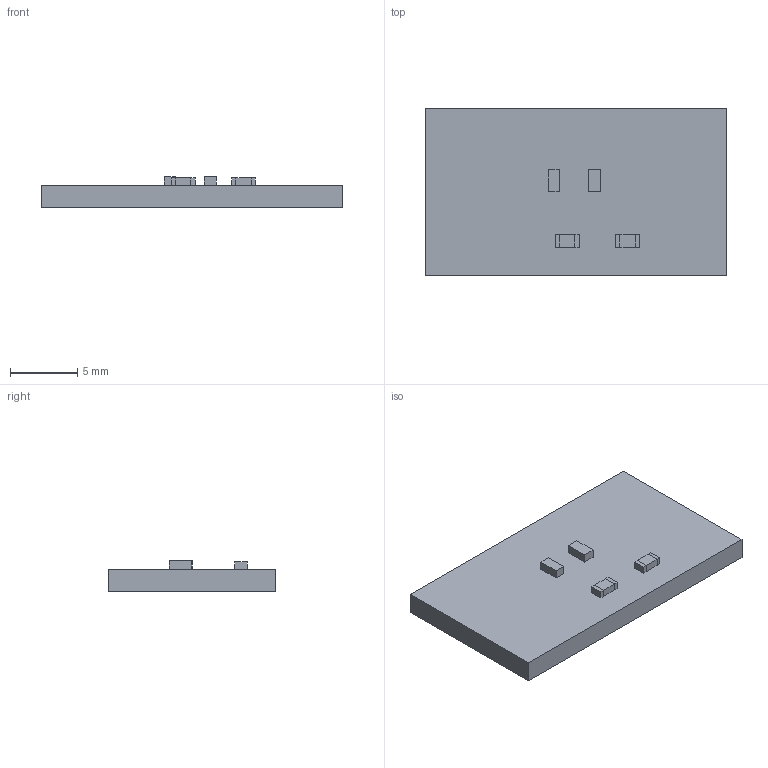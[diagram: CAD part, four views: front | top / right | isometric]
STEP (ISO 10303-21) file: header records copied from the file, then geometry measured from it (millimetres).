
FILE_DESCRIPTION(('Open CASCADE Model'),'2;1');
FILE_NAME('Open CASCADE Shape Model','2017-05-02T12:56:54',('Author'),( 'Open CASCADE'),'Open CASCADE STEP processor 6.5','Open CASCADE 6.5' ,'Unknown');
FILE_SCHEMA(('AUTOMOTIVE_DESIGN { 1 0 10303 214 1 1 1 1 }'));
Length unit declared in the file: millimetre
Products named in the file (14): PCB; Board; LED1; 1532109264; Extruded; LED2; 1532107216; R1; 1532109008; 1532108880; R2
Assembly tree (17 placements, depth 4):
  PCB
    Board
    LED1
      1532109264
        Extruded
    LED2
      1532107216
        Extruded
    R1
      1532109008
        Extruded
      1532108880  x2
        Extruded
    R2
      1532109008
        Extruded
      1532108880  x2
        Extruded
Bounding box: 22.5 x 12.5 x 2.3 mm (x, y, z)
Volume: 466.6 mm3; surface area: 706.6 mm2
Topology: 9 solids, 9 shells, 54 faces, 108 edges, 72 vertices
Faces by surface type: plane 54
Entity records: 1866 total; most frequent: DIRECTION 276, CARTESIAN_POINT 268, LINE 180, VECTOR 180, ORIENTED_EDGE 120, PCURVE 120, DEFINITIONAL_REPRESENTATION 120, EDGE_CURVE 60
